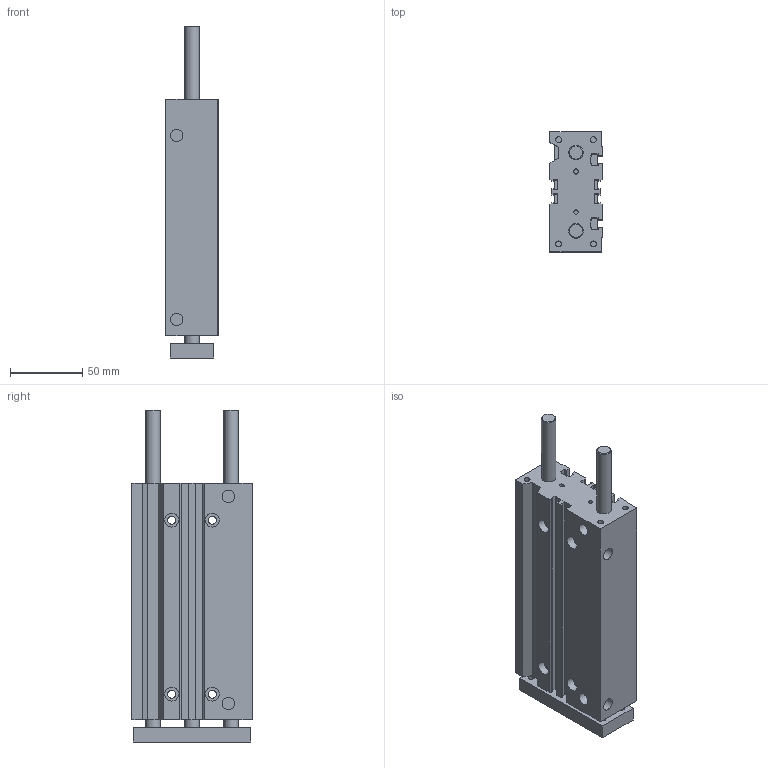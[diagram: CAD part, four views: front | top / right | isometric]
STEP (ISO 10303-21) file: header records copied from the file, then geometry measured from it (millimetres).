
FILE_DESCRIPTION((''),'2;1');
FILE_NAME('K:\A-Mauro\_Inventor\LIBRERIE\6100\6100_#_#_#\6100200125C.stp','2007-02-26T08:54:16',('valotma1'),(''),'Autodesk Inventor 11','Autodesk Inventor 11','');
FILE_SCHEMA(('AUTOMOTIVE_DESIGN { 1 0 10303 214 1 1 1 1 }'));
Length unit declared in the file: millimetre
Products named in the file (3): 6100200125C; CORPO Ø20 C125 C; PIASTRA Ø20 C125 C
Assembly tree (2 placements, depth 2):
  6100200125C
    CORPO Ø20 C125 C
    PIASTRA Ø20 C125 C
Bounding box: 36 x 83 x 229 mm (x, y, z)
Volume: 466191.3 mm3; surface area: 100818.1 mm2
Topology: 2 solids, 2 shells, 158 faces, 393 edges, 261 vertices
Faces by surface type: plane 95, bspline 52, cylinder 9, cone 2
Full cylindrical faces by diameter (mm): 10 x3
Entity records: 4932 total; most frequent: CARTESIAN_POINT 1329, ORIENTED_EDGE 702, DIRECTION 654, EDGE_CURVE 351, VECTOR 270, LINE 270, VERTEX_POINT 253, EDGE_LOOP 234
